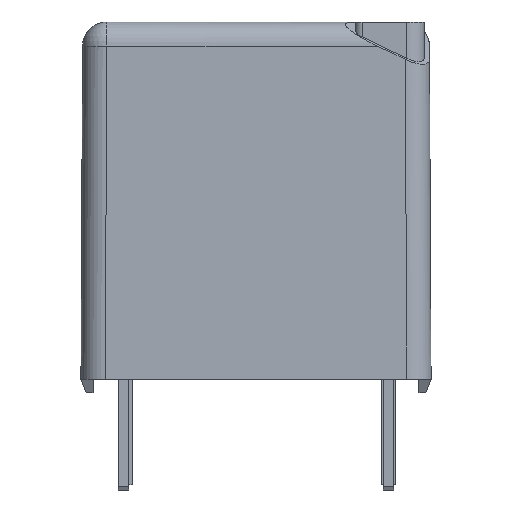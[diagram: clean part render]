
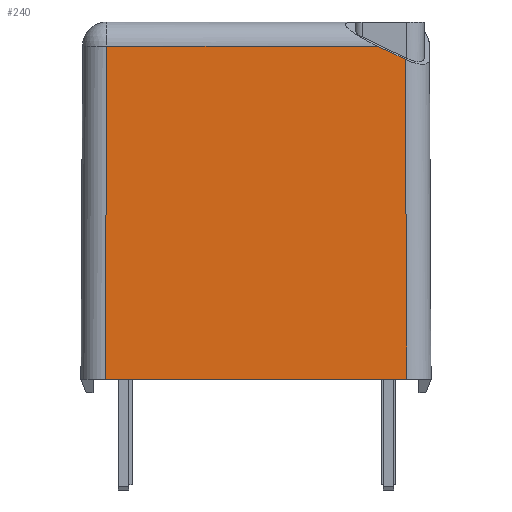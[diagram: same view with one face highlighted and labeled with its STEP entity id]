
A CAD part, left-side view. The second image highlights one B-rep face of the part: STEP entity #240.
In plain terms, the highlighted planar face has unit normal (-1, 0, 0.01).
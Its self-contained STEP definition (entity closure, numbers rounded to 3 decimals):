
#240 = ADVANCED_FACE( '', ( #484 ), #485, .T. );
#484 = FACE_OUTER_BOUND( '', #733, .T. );
#485 = PLANE( '', #734 );
#733 = EDGE_LOOP( '', ( #1346, #1347, #1348, #1349, #1350 ) );
#734 = AXIS2_PLACEMENT_3D( '', #1351, #1352, #1353 );
#1346 = ORIENTED_EDGE( '', *, *, #1511, .T. );
#1347 = ORIENTED_EDGE( '', *, *, #1626, .T. );
#1348 = ORIENTED_EDGE( '', *, *, #1692, .T. );
#1349 = ORIENTED_EDGE( '', *, *, #1653, .T. );
#1350 = ORIENTED_EDGE( '', *, *, #1708, .F. );
#1351 = CARTESIAN_POINT( '', ( -9.9, 6.8, 10.3 ) );
#1352 = DIRECTION( '', ( -1., 0., 0.01 ) );
#1353 = DIRECTION( '', ( 0.01, 0., 1. ) );
#1511 = EDGE_CURVE( '', #1822, #1820, #1823, .T. );
#1626 = EDGE_CURVE( '', #1820, #1995, #1996, .T. );
#1653 = EDGE_CURVE( '', #1991, #2027, #2028, .T. );
#1692 = EDGE_CURVE( '', #1995, #1991, #2075, .F. );
#1708 = EDGE_CURVE( '', #1822, #2027, #2095, .T. );
#1820 = VERTEX_POINT( '', #2250 );
#1822 = VERTEX_POINT( '', #2252 );
#1823 = LINE( '', #2253, #2254 );
#1991 = VERTEX_POINT( '', #2495 );
#1995 = VERTEX_POINT( '', #2499 );
#1996 = LINE( '', #2500, #2501 );
#2027 = VERTEX_POINT( '', #2546 );
#2028 = LINE( '', #2547, #2548 );
#2075 = LINE( '', #2616, #2617 );
#2095 = LINE( '', #2641, #2642 );
#2250 = CARTESIAN_POINT( '', ( -9.91, -4.355, 9.221 ) );
#2252 = CARTESIAN_POINT( '', ( -10., -4.4, 0. ) );
#2253 = CARTESIAN_POINT( '', ( -9.899, -4.35, 10.354 ) );
#2254 = VECTOR( '', #2715, 1000. );
#2495 = CARTESIAN_POINT( '', ( -9.907, 4.253, 9.607 ) );
#2499 = CARTESIAN_POINT( '', ( -9.907, -3.55, 9.607 ) );
#2500 = CARTESIAN_POINT( '', ( -9.866, 5.137, 13.769 ) );
#2501 = VECTOR( '', #2828, 1000. );
#2546 = CARTESIAN_POINT( '', ( -10., 4.3, 0. ) );
#2547 = CARTESIAN_POINT( '', ( -9.9, 4.25, 10.288 ) );
#2548 = VECTOR( '', #2855, 1000. );
#2616 = CARTESIAN_POINT( '', ( -9.907, 4.25, 9.607 ) );
#2617 = VECTOR( '', #2880, 1000. );
#2641 = CARTESIAN_POINT( '', ( -10., -5.1, 0. ) );
#2642 = VECTOR( '', #2894, 1000. );
#2715 = DIRECTION( '', ( 0.01, 0.005, 1. ) );
#2828 = DIRECTION( '', ( 0.004, 0.902, 0.432 ) );
#2855 = DIRECTION( '', ( -0.01, 0.005, -1. ) );
#2880 = DIRECTION( '', ( 0., -1., 0. ) );
#2894 = DIRECTION( '', ( 0., 1., 0. ) );
